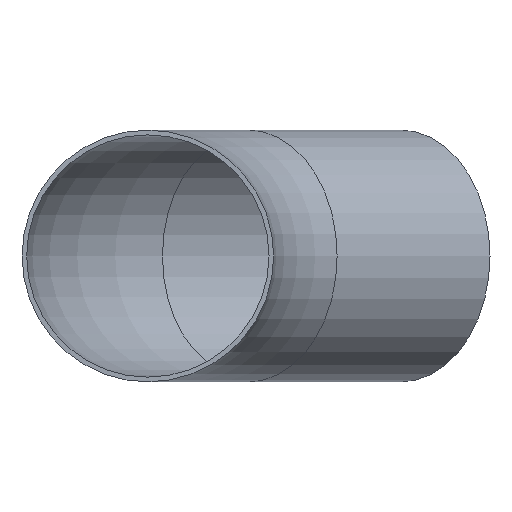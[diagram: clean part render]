
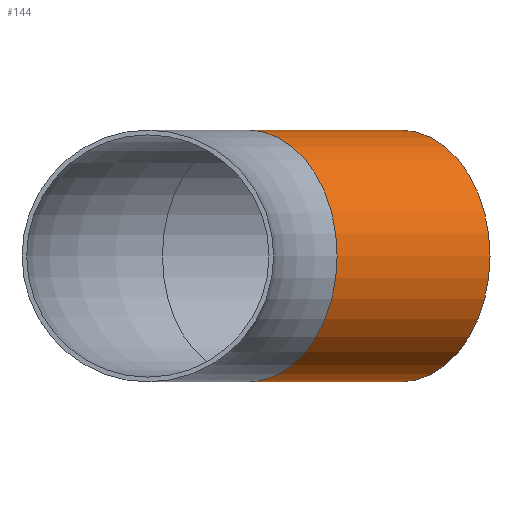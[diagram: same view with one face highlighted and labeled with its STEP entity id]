
A CAD part, front view. The second image highlights one B-rep face of the part: STEP entity #144.
In plain terms, the highlighted cylindrical face has radius 69.85 mm (diameter 139.7 mm), a full revolution.
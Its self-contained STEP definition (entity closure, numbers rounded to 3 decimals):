
#24=FACE_OUTER_BOUND('',#32,.T.);
#32=EDGE_LOOP('',(#113,#114,#115,#116,#117,#118));
#41=LINE('',#272,#45);
#45=VECTOR('',#223,69.85);
#54=CIRCLE('',#180,69.85);
#55=CIRCLE('',#181,69.85);
#56=CIRCLE('',#182,69.85);
#57=CIRCLE('',#183,69.85);
#69=VERTEX_POINT('',#267);
#70=VERTEX_POINT('',#268);
#71=VERTEX_POINT('',#271);
#72=VERTEX_POINT('',#273);
#86=EDGE_CURVE('',#69,#70,#54,.T.);
#87=EDGE_CURVE('',#70,#69,#55,.T.);
#88=EDGE_CURVE('',#70,#71,#41,.T.);
#89=EDGE_CURVE('',#71,#72,#56,.T.);
#90=EDGE_CURVE('',#72,#71,#57,.T.);
#113=ORIENTED_EDGE('',*,*,#86,.F.);
#114=ORIENTED_EDGE('',*,*,#87,.F.);
#115=ORIENTED_EDGE('',*,*,#88,.T.);
#116=ORIENTED_EDGE('',*,*,#89,.T.);
#117=ORIENTED_EDGE('',*,*,#90,.T.);
#118=ORIENTED_EDGE('',*,*,#88,.F.);
#139=CYLINDRICAL_SURFACE('',#179,69.85);
#144=ADVANCED_FACE('',(#24),#139,.T.);
#179=AXIS2_PLACEMENT_3D('',#266,#217,#218);
#180=AXIS2_PLACEMENT_3D('',#269,#219,#220);
#181=AXIS2_PLACEMENT_3D('',#270,#221,#222);
#182=AXIS2_PLACEMENT_3D('',#274,#224,#225);
#183=AXIS2_PLACEMENT_3D('',#275,#226,#227);
#217=DIRECTION('center_axis',(0.707,0.707,0.));
#218=DIRECTION('ref_axis',(-0.707,0.707,0.));
#219=DIRECTION('center_axis',(0.707,0.707,0.));
#220=DIRECTION('ref_axis',(-0.707,0.707,0.));
#221=DIRECTION('center_axis',(0.707,0.707,0.));
#222=DIRECTION('ref_axis',(-0.707,0.707,0.));
#223=DIRECTION('',(-0.707,-0.707,0.));
#224=DIRECTION('center_axis',(0.707,0.707,0.));
#225=DIRECTION('ref_axis',(-0.707,0.707,0.));
#226=DIRECTION('center_axis',(0.707,0.707,0.));
#227=DIRECTION('ref_axis',(-0.707,0.707,0.));
#266=CARTESIAN_POINT('Origin',(55.65,254.35,0.));
#267=CARTESIAN_POINT('',(91.111,388.595,0.));
#268=CARTESIAN_POINT('',(189.894,289.812,0.));
#269=CARTESIAN_POINT('Origin',(140.503,339.203,0.));
#270=CARTESIAN_POINT('Origin',(140.503,339.203,0.));
#271=CARTESIAN_POINT('',(105.041,204.959,0.));
#272=CARTESIAN_POINT('',(105.041,204.959,0.));
#273=CARTESIAN_POINT('',(6.258,303.742,0.));
#274=CARTESIAN_POINT('Origin',(55.65,254.35,0.));
#275=CARTESIAN_POINT('Origin',(55.65,254.35,0.));
